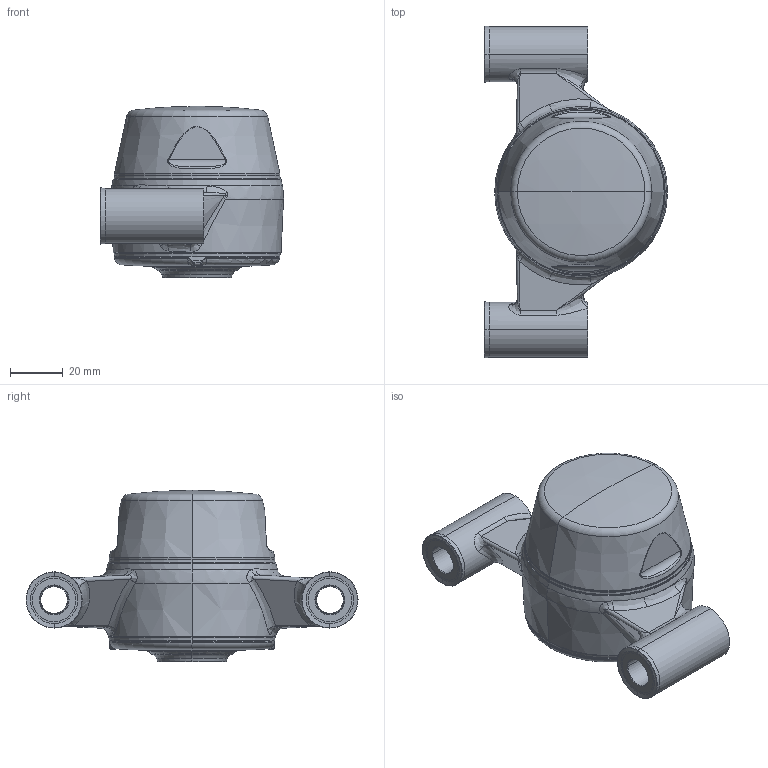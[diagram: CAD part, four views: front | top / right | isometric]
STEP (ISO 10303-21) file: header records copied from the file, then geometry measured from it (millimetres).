
FILE_DESCRIPTION (( 'STEP AP203' ), '1' );
FILE_NAME ('XBPBC52(Blue)-CSB2540(Front)-CL(Blue)-OS(Blue)_Shell.step', '2020-08-09T01:07:06', ( '' ), ( '' ), 'SwSTEP 2.0', 'SolidWorks 2019', '' );
FILE_SCHEMA (( 'CONFIG_CONTROL_DESIGN' ));
Length unit declared in the file: millimetre
Products named in the file (1): XBPBC52(Blue)-CSB2540(Front)-CL(Blue)-OS(Blue)_Shell
Bounding box: 69.69 x 126.4 x 65.25 mm (x, y, z)
Surface area: 36016.7 mm2 (no closed solid volume)
Topology: 0 solids, 20 shells, 260 faces, 770 edges, 518 vertices
Faces by surface type: bspline 84, cone 61, torus 44, cylinder 42, plane 23, sphere 6
Entity records: 15126 total; most frequent: CARTESIAN_POINT 8711, ORIENTED_EDGE 1302, DIRECTION 1269, EDGE_CURVE 770, AXIS2_PLACEMENT_3D 567, VERTEX_POINT 518, CIRCLE 390, EDGE_LOOP 279
